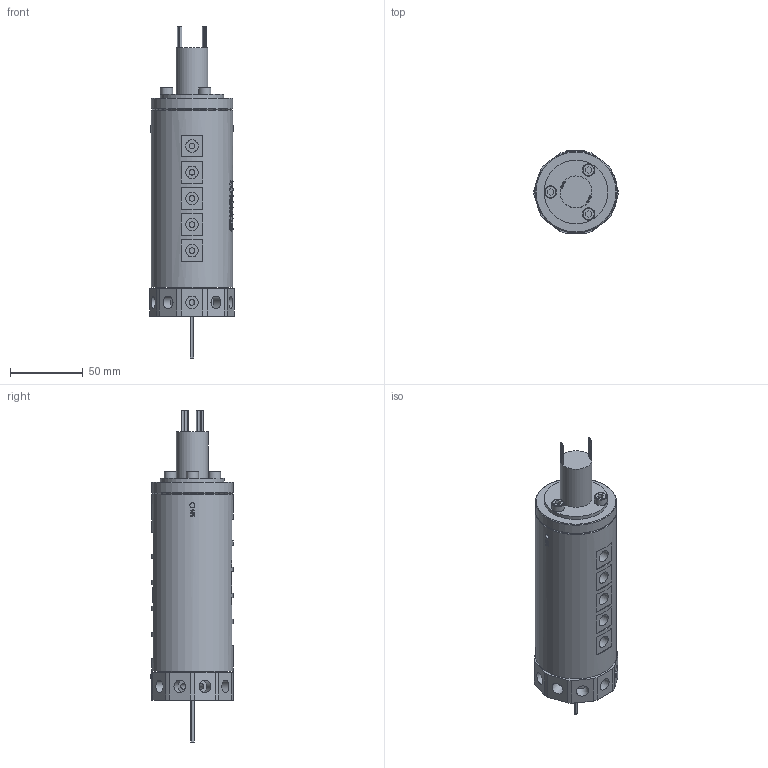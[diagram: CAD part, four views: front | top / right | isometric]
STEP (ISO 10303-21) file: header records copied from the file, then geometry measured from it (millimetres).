
FILE_DESCRIPTION(/* description */ (''),/* implementation_level */ '2;1');
FILE_NAME(/* name */ 'HQ1001-24M.stp',/* time_stamp */ '2025-02-14T12:01:43+08:00',/* author */ (''),/* organization */ (''),/* preprocessor_version */ 'ST-DEVELOPER v16.7',/* originating_system */ 'SIEMENS PLM Software NX 12.0',/* authorisation */ '');
FILE_SCHEMA (('AUTOMOTIVE_DESIGN { 1 0 10303 214 3 1 1 1 }'));
Length unit declared in the file: millimetre
Products named in the file (1): HX0540E8A2D8ngkp
Bounding box: 57.99 x 56.5 x 228.4 mm (x, y, z)
Volume: 364281.7 mm3; surface area: 55785 mm2
Topology: 1 solids, 4 shells, 1210 faces, 3149 edges, 2124 vertices
Faces by surface type: plane 541, extrusion 485, cylinder 144, bspline 30, cone 7, torus 3
Full cylindrical faces by diameter (mm): 0.8 x16, 3.4 x6, 4 x30, 4.1 x10, 4.2 x10, 5 x3, 5.5 x3, 7.8 x1, 8 x1, 8.5 x23, 22 x1, 34 x1, 44 x1, 56 x2
Entity records: 42962 total; most frequent: CARTESIAN_POINT 17540, ORIENTED_EDGE 5884, DIRECTION 3372, EDGE_CURVE 2942, B_SPLINE_CURVE_WITH_KNOTS 2351, VERTEX_POINT 2049, EDGE_LOOP 1515, ADVANCED_FACE 1207
